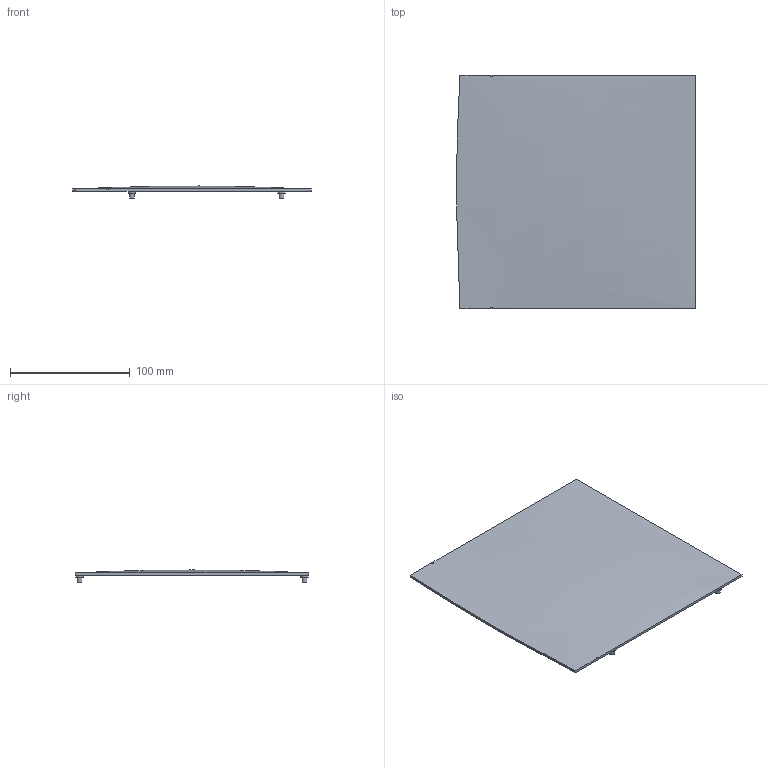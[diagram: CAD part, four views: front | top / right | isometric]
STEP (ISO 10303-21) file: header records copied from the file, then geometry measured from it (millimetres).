
FILE_DESCRIPTION(('Open CASCADE Model'),'2;1');
FILE_NAME('Open CASCADE Shape Model','2026-10-28T14:56:45',('Author'),( 'Open CASCADE'),'Open CASCADE STEP processor 7.8','Open CASCADE 7.8' ,'Unknown');
FILE_SCHEMA(('AUTOMOTIVE_DESIGN { 1 0 10303 214 1 1 1 1 }'));
Length unit declared in the file: millimetre
Products named in the file (1): Open CASCADE STEP translator 7.8 1
Bounding box: 199.66 x 195.4 x 10.04 mm (x, y, z)
Volume: 78060.3 mm3; surface area: 79600.4 mm2
Topology: 1 solids, 1 shells, 30 faces, 64 edges, 44 vertices
Faces by surface type: bspline 14, cylinder 8, plane 8
Full cylindrical faces by diameter (mm): 4 x4, 6 x4
Entity records: 15015 total; most frequent: CARTESIAN_POINT 13862, DIRECTION 142, ORIENTED_EDGE 128, PCURVE 128, DEFINITIONAL_REPRESENTATION 128, B_SPLINE_CURVE_WITH_KNOTS 96, LINE 72, VECTOR 72
